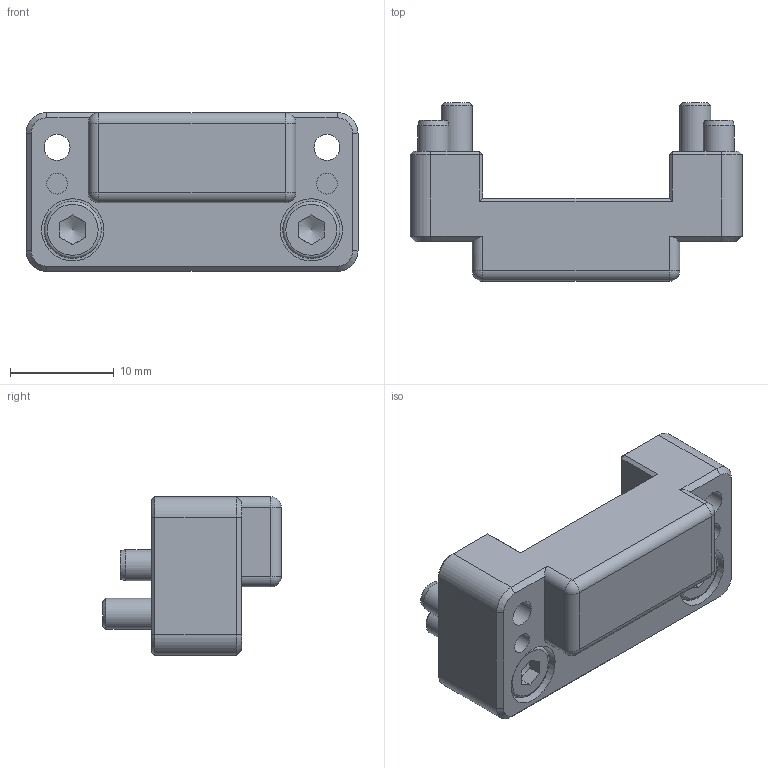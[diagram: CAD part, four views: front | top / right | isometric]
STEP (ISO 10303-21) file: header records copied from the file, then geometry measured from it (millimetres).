
FILE_DESCRIPTION(/* description */ (''),/* implementation_level */ '2;1');
FILE_NAME(/* name */ 'ZG-AP-SEK100-SHS063-U.stp',/* time_stamp */ '2024-11-13T16:06:02+01:00',/* author */ ('ysplieth'),/* organization */ (''),/* preprocessor_version */ 'ST-DEVELOPER v20',/* originating_system */ 'Autodesk Inventor 2024',/* authorisation */ '');
FILE_SCHEMA (('AUTOMOTIVE_DESIGN { 1 0 10303 214 3 1 1 }'));
Length unit declared in the file: millimetre
Products named in the file (1): Bauteil12
Bounding box: 32 x 17.2 x 15.3 mm (x, y, z)
Volume: 3528.5 mm3; surface area: 2675 mm2
Topology: 1 solids, 3 shells, 115 faces, 251 edges, 152 vertices
Faces by surface type: plane 63, cylinder 28, cone 16, torus 4, sphere 4
Full cylindrical faces by diameter (mm): 2 x2, 2.5 x2, 3 x6, 3.4 x2, 5.5 x2, 6 x2
Entity records: 3278 total; most frequent: DIRECTION 555, CARTESIAN_POINT 545, ORIENTED_EDGE 498, EDGE_CURVE 249, AXIS2_PLACEMENT_3D 204, VERTEX_POINT 152, LINE 147, VECTOR 147
